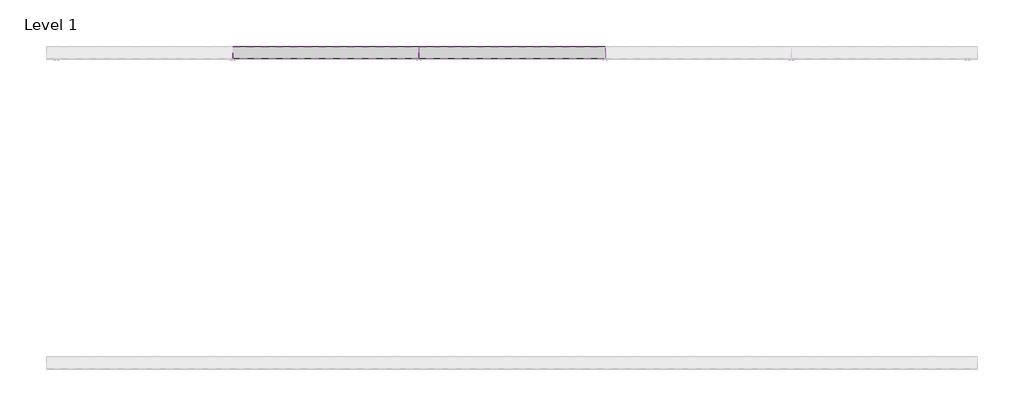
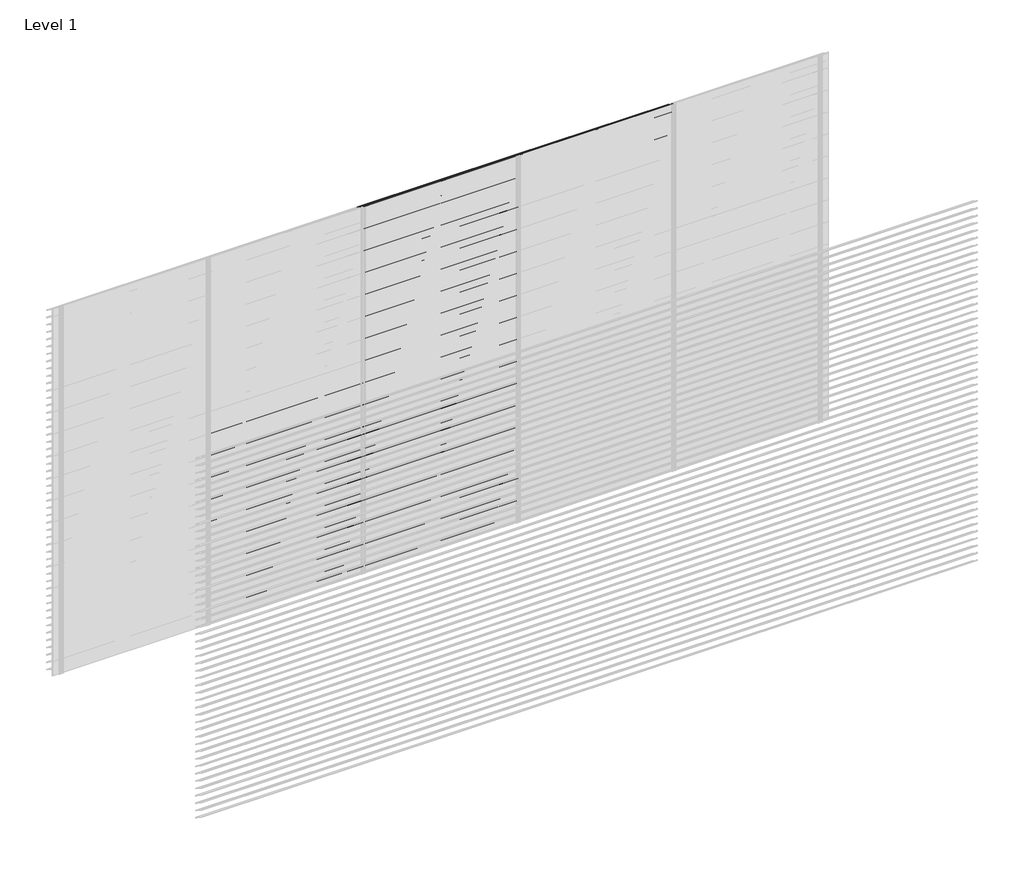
# One storey, part 133 of 153: 84 proxies.
"""IFC4 building model written with IfcOpenShell, lengths in millimetres."""

from ifc_helpers import new_model, si_unit, frame, origin, place, context, project, spatial, polyline, outline, extrude, element, save

model = new_model("IFC4")

# Units and contexts
model_context = context("Model", 3, world=origin())
ifc_project = project(units=[si_unit("LENGTHUNIT", "METRE", prefix="MILLI")], contexts=[model_context])

# Site, building, storey
site = spatial("IfcSite", under=ifc_project)
building = spatial("IfcBuilding", under=site)
storey = spatial("IfcBuildingStorey", under=building, Name="Level 1", Elevation=0.0)

# Proxies
placement = place(None, origin())
element("IfcBuildingElementProxy", 1, Name="Wall Sweeps", at=placement, inside=storey, context=model_context, shape_type="SweptSolid", body=[
    extrude(outline(polyline([(74061.0540136, 1566.0), (74061.0540136, 1560.0), (74059.8040136, 1560.7216933), (74059.8040136, 1565.2538091), (73983.0540136, 1613.9915103), (73983.0540136, 1620.0), (73984.3040136, 1620.0), (73984.3040136, 1614.7377012), (74061.0540136, 1566.0)])), frame((1666.6208099, 0.0, 0.0), z_axis=(1.0, 0.0, 0.0), x_axis=(0.0, 1.0, 0.0)), (0.0, 0.0, 1.0), 1199.9999999),
])
element("IfcBuildingElementProxy", 2, Name="Wall Sweeps", at=placement, inside=storey, context=model_context, shape_type="SweptSolid", body=[
    extrude(outline(polyline([(74061.0540136, 1506.0), (74061.0540136, 1500.0), (74059.8040136, 1500.7216933), (74059.8040136, 1505.2538091), (73983.0540136, 1553.9915103), (73983.0540136, 1560.0), (73984.3040136, 1560.0), (73984.3040136, 1554.7377012), (74061.0540136, 1506.0)])), frame((1666.6208099, 0.0, 0.0), z_axis=(1.0, 0.0, 0.0), x_axis=(0.0, 1.0, 0.0)), (0.0, 0.0, 1.0), 1199.9999999),
])
element("IfcBuildingElementProxy", 3, Name="Wall Sweeps", at=placement, inside=storey, context=model_context, shape_type="SweptSolid", body=[
    extrude(outline(polyline([(74061.0540136, 1446.0), (74061.0540136, 1440.0), (74059.8040136, 1440.7216933), (74059.8040136, 1445.2538091), (73983.0540136, 1493.9915103), (73983.0540136, 1500.0), (73984.3040136, 1500.0), (73984.3040136, 1494.7377012), (74061.0540136, 1446.0)])), frame((1666.6208099, 0.0, 0.0), z_axis=(1.0, 0.0, 0.0), x_axis=(0.0, 1.0, 0.0)), (0.0, 0.0, 1.0), 1199.9999999),
])
element("IfcBuildingElementProxy", 4, Name="Wall Sweeps", at=placement, inside=storey, context=model_context, shape_type="SweptSolid", body=[
    extrude(outline(polyline([(74061.0540136, 1386.0), (74061.0540136, 1380.0), (74059.8040136, 1380.7216933), (74059.8040136, 1385.2538091), (73983.0540136, 1433.9915103), (73983.0540136, 1440.0), (73984.3040136, 1440.0), (73984.3040136, 1434.7377012), (74061.0540136, 1386.0)])), frame((1666.6208099, 0.0, 0.0), z_axis=(1.0, 0.0, 0.0), x_axis=(0.0, 1.0, 0.0)), (0.0, 0.0, 1.0), 1199.9999999),
])
element("IfcBuildingElementProxy", 5, Name="Wall Sweeps", at=placement, inside=storey, context=model_context, shape_type="SweptSolid", body=[
    extrude(outline(polyline([(74061.0540136, 1326.0), (74061.0540136, 1320.0), (74059.8040136, 1320.7216933), (74059.8040136, 1325.2538091), (73983.0540136, 1373.9915103), (73983.0540136, 1380.0), (73984.3040136, 1380.0), (73984.3040136, 1374.7377012), (74061.0540136, 1326.0)])), frame((1666.6208099, 0.0, 0.0), z_axis=(1.0, 0.0, 0.0), x_axis=(0.0, 1.0, 0.0)), (0.0, 0.0, 1.0), 1199.9999999),
])
element("IfcBuildingElementProxy", 6, Name="Wall Sweeps", at=placement, inside=storey, context=model_context, shape_type="SweptSolid", body=[
    extrude(outline(polyline([(74061.0540136, 1266.0), (74061.0540136, 1260.0), (74059.8040136, 1260.7216933), (74059.8040136, 1265.2538091), (73983.0540136, 1313.9915103), (73983.0540136, 1320.0), (73984.3040136, 1320.0), (73984.3040136, 1314.7377012), (74061.0540136, 1266.0)])), frame((1666.6208099, 0.0, 0.0), z_axis=(1.0, 0.0, 0.0), x_axis=(0.0, 1.0, 0.0)), (0.0, 0.0, 1.0), 1199.9999999),
])
element("IfcBuildingElementProxy", 7, Name="Wall Sweeps", at=placement, inside=storey, context=model_context, shape_type="SweptSolid", body=[
    extrude(outline(polyline([(74061.0540136, 1206.0), (74061.0540136, 1200.0), (74059.8040136, 1200.7216933), (74059.8040136, 1205.2538091), (73983.0540136, 1253.9915103), (73983.0540136, 1260.0), (73984.3040136, 1260.0), (73984.3040136, 1254.7377012), (74061.0540136, 1206.0)])), frame((1666.6208099, 0.0, 0.0), z_axis=(1.0, 0.0, 0.0), x_axis=(0.0, 1.0, 0.0)), (0.0, 0.0, 1.0), 1199.9999999),
])
element("IfcBuildingElementProxy", 8, Name="Wall Sweeps", at=placement, inside=storey, context=model_context, shape_type="SweptSolid", body=[
    extrude(outline(polyline([(74061.0540136, 1146.0), (74061.0540136, 1140.0), (74059.8040136, 1140.7216933), (74059.8040136, 1145.2538091), (73983.0540136, 1193.9915103), (73983.0540136, 1200.0), (73984.3040136, 1200.0), (73984.3040136, 1194.7377012), (74061.0540136, 1146.0)])), frame((1666.6208099, 0.0, 0.0), z_axis=(1.0, 0.0, 0.0), x_axis=(0.0, 1.0, 0.0)), (0.0, 0.0, 1.0), 1199.9999999),
])
element("IfcBuildingElementProxy", 9, Name="Wall Sweeps", at=placement, inside=storey, context=model_context, shape_type="SweptSolid", body=[
    extrude(outline(polyline([(74061.0540136, 1086.0), (74061.0540136, 1080.0), (74059.8040136, 1080.7216933), (74059.8040136, 1085.2538091), (73983.0540136, 1133.9915103), (73983.0540136, 1140.0), (73984.3040136, 1140.0), (73984.3040136, 1134.7377012), (74061.0540136, 1086.0)])), frame((1666.6208099, 0.0, 0.0), z_axis=(1.0, 0.0, 0.0), x_axis=(0.0, 1.0, 0.0)), (0.0, 0.0, 1.0), 1199.9999999),
])
element("IfcBuildingElementProxy", 10, Name="Wall Sweeps", at=placement, inside=storey, context=model_context, shape_type="SweptSolid", body=[
    extrude(outline(polyline([(74061.0540136, 1026.0), (74061.0540136, 1020.0), (74059.8040136, 1020.7216933), (74059.8040136, 1025.2538091), (73983.0540136, 1073.9915103), (73983.0540136, 1080.0), (73984.3040136, 1080.0), (73984.3040136, 1074.7377012), (74061.0540136, 1026.0)])), frame((1666.6208099, 0.0, 0.0), z_axis=(1.0, 0.0, 0.0), x_axis=(0.0, 1.0, 0.0)), (0.0, 0.0, 1.0), 1199.9999999),
])
element("IfcBuildingElementProxy", 11, Name="Wall Sweeps", at=placement, inside=storey, context=model_context, shape_type="SweptSolid", body=[
    extrude(outline(polyline([(74061.0540136, 966.0), (74061.0540136, 960.0), (74059.8040136, 960.7216933), (74059.8040136, 965.2538091), (73983.0540136, 1013.9915103), (73983.0540136, 1020.0), (73984.3040136, 1020.0), (73984.3040136, 1014.7377012), (74061.0540136, 966.0)])), frame((1666.6208099, 0.0, 0.0), z_axis=(1.0, 0.0, 0.0), x_axis=(0.0, 1.0, 0.0)), (0.0, 0.0, 1.0), 1199.9999999),
])
element("IfcBuildingElementProxy", 12, Name="Wall Sweeps", at=placement, inside=storey, context=model_context, shape_type="SweptSolid", body=[
    extrude(outline(polyline([(74061.0540136, 906.0), (74061.0540136, 900.0), (74059.8040136, 900.7216933), (74059.8040136, 905.2538091), (73983.0540136, 953.9915103), (73983.0540136, 960.0), (73984.3040136, 960.0), (73984.3040136, 954.7377012), (74061.0540136, 906.0)])), frame((1666.6208099, 0.0, 0.0), z_axis=(1.0, 0.0, 0.0), x_axis=(0.0, 1.0, 0.0)), (0.0, 0.0, 1.0), 1199.9999999),
])
element("IfcBuildingElementProxy", 13, Name="Wall Sweeps", at=placement, inside=storey, context=model_context, shape_type="SweptSolid", body=[
    extrude(outline(polyline([(74061.0540136, 846.0), (74061.0540136, 840.0), (74059.8040136, 840.7216933), (74059.8040136, 845.2538091), (73983.0540136, 893.9915103), (73983.0540136, 900.0), (73984.3040136, 900.0), (73984.3040136, 894.7377012), (74061.0540136, 846.0)])), frame((1666.6208099, 0.0, 0.0), z_axis=(1.0, 0.0, 0.0), x_axis=(0.0, 1.0, 0.0)), (0.0, 0.0, 1.0), 1199.9999999),
])
element("IfcBuildingElementProxy", 14, Name="Wall Sweeps", at=placement, inside=storey, context=model_context, shape_type="SweptSolid", body=[
    extrude(outline(polyline([(74061.0540136, 786.0), (74061.0540136, 780.0), (74059.8040136, 780.7216933), (74059.8040136, 785.2538091), (73983.0540136, 833.9915103), (73983.0540136, 840.0), (73984.3040136, 840.0), (73984.3040136, 834.7377012), (74061.0540136, 786.0)])), frame((1666.6208099, 0.0, 0.0), z_axis=(1.0, 0.0, 0.0), x_axis=(0.0, 1.0, 0.0)), (0.0, 0.0, 1.0), 1199.9999999),
])
element("IfcBuildingElementProxy", 15, Name="Wall Sweeps", at=placement, inside=storey, context=model_context, shape_type="SweptSolid", body=[
    extrude(outline(polyline([(74061.0540136, 726.0), (74061.0540136, 720.0), (74059.8040136, 720.7216933), (74059.8040136, 725.2538091), (73983.0540136, 773.9915103), (73983.0540136, 780.0), (73984.3040136, 780.0), (73984.3040136, 774.7377012), (74061.0540136, 726.0)])), frame((1666.6208099, 0.0, 0.0), z_axis=(1.0, 0.0, 0.0), x_axis=(0.0, 1.0, 0.0)), (0.0, 0.0, 1.0), 1199.9999999),
])
element("IfcBuildingElementProxy", 16, Name="Wall Sweeps", at=placement, inside=storey, context=model_context, shape_type="SweptSolid", body=[
    extrude(outline(polyline([(74061.0540136, 666.0), (74061.0540136, 660.0), (74059.8040136, 660.7216933), (74059.8040136, 665.2538091), (73983.0540136, 713.9915103), (73983.0540136, 720.0), (73984.3040136, 720.0), (73984.3040136, 714.7377012), (74061.0540136, 666.0)])), frame((1666.6208099, 0.0, 0.0), z_axis=(1.0, 0.0, 0.0), x_axis=(0.0, 1.0, 0.0)), (0.0, 0.0, 1.0), 1199.9999999),
])
element("IfcBuildingElementProxy", 17, Name="Wall Sweeps", at=placement, inside=storey, context=model_context, shape_type="SweptSolid", body=[
    extrude(outline(polyline([(74061.0540136, 606.0), (74061.0540136, 600.0), (74059.8040136, 600.7216933), (74059.8040136, 605.2538091), (73983.0540136, 653.9915103), (73983.0540136, 660.0), (73984.3040136, 660.0), (73984.3040136, 654.7377012), (74061.0540136, 606.0)])), frame((1666.6208099, 0.0, 0.0), z_axis=(1.0, 0.0, 0.0), x_axis=(0.0, 1.0, 0.0)), (0.0, 0.0, 1.0), 1199.9999999),
])
element("IfcBuildingElementProxy", 18, Name="Wall Sweeps", at=placement, inside=storey, context=model_context, shape_type="SweptSolid", body=[
    extrude(outline(polyline([(74061.0540136, 546.0), (74061.0540136, 540.0), (74059.8040136, 540.7216933), (74059.8040136, 545.2538091), (73983.0540136, 593.9915103), (73983.0540136, 600.0), (73984.3040136, 600.0), (73984.3040136, 594.7377012), (74061.0540136, 546.0)])), frame((1666.6208099, 0.0, 0.0), z_axis=(1.0, 0.0, 0.0), x_axis=(0.0, 1.0, 0.0)), (0.0, 0.0, 1.0), 1199.9999999),
])
element("IfcBuildingElementProxy", 19, Name="Wall Sweeps", at=placement, inside=storey, context=model_context, shape_type="SweptSolid", body=[
    extrude(outline(polyline([(74061.0540136, 486.0), (74061.0540136, 480.0), (74059.8040136, 480.7216933), (74059.8040136, 485.2538091), (73983.0540136, 533.9915103), (73983.0540136, 540.0), (73984.3040136, 540.0), (73984.3040136, 534.7377012), (74061.0540136, 486.0)])), frame((1666.6208099, 0.0, 0.0), z_axis=(1.0, 0.0, 0.0), x_axis=(0.0, 1.0, 0.0)), (0.0, 0.0, 1.0), 1199.9999999),
])
element("IfcBuildingElementProxy", 20, Name="Wall Sweeps", at=placement, inside=storey, context=model_context, shape_type="SweptSolid", body=[
    extrude(outline(polyline([(74061.0540136, 426.0), (74061.0540136, 420.0), (74059.8040136, 420.7216933), (74059.8040136, 425.2538091), (73983.0540136, 473.9915103), (73983.0540136, 480.0), (73984.3040136, 480.0), (73984.3040136, 474.7377012), (74061.0540136, 426.0)])), frame((1666.6208099, 0.0, 0.0), z_axis=(1.0, 0.0, 0.0), x_axis=(0.0, 1.0, 0.0)), (0.0, 0.0, 1.0), 1199.9999999),
])
element("IfcBuildingElementProxy", 21, Name="Wall Sweeps", at=placement, inside=storey, context=model_context, shape_type="SweptSolid", body=[
    extrude(outline(polyline([(74061.0540136, 366.0), (74061.0540136, 360.0), (74059.8040136, 360.7216933), (74059.8040136, 365.2538091), (73983.0540136, 413.9915103), (73983.0540136, 420.0), (73984.3040136, 420.0), (73984.3040136, 414.7377012), (74061.0540136, 366.0)])), frame((1666.6208099, 0.0, 0.0), z_axis=(1.0, 0.0, 0.0), x_axis=(0.0, 1.0, 0.0)), (0.0, 0.0, 1.0), 1199.9999999),
])
element("IfcBuildingElementProxy", 22, Name="Wall Sweeps", at=placement, inside=storey, context=model_context, shape_type="SweptSolid", body=[
    extrude(outline(polyline([(74061.0540136, 306.0), (74061.0540136, 300.0), (74059.8040136, 300.7216933), (74059.8040136, 305.2538091), (73983.0540136, 353.9915103), (73983.0540136, 360.0), (73984.3040136, 360.0), (73984.3040136, 354.7377012), (74061.0540136, 306.0)])), frame((1666.6208099, 0.0, 0.0), z_axis=(1.0, 0.0, 0.0), x_axis=(0.0, 1.0, 0.0)), (0.0, 0.0, 1.0), 1199.9999999),
])
element("IfcBuildingElementProxy", 23, Name="Wall Sweeps", at=placement, inside=storey, context=model_context, shape_type="SweptSolid", body=[
    extrude(outline(polyline([(74061.0540136, 246.0), (74061.0540136, 240.0), (74059.8040136, 240.7216933), (74059.8040136, 245.2538091), (73983.0540136, 293.9915103), (73983.0540136, 300.0), (73984.3040136, 300.0), (73984.3040136, 294.7377012), (74061.0540136, 246.0)])), frame((1666.6208099, 0.0, 0.0), z_axis=(1.0, 0.0, 0.0), x_axis=(0.0, 1.0, 0.0)), (0.0, 0.0, 1.0), 1199.9999999),
])
element("IfcBuildingElementProxy", 24, Name="Wall Sweeps", at=placement, inside=storey, context=model_context, shape_type="SweptSolid", body=[
    extrude(outline(polyline([(74061.0540136, 186.0), (74061.0540136, 180.0), (74059.8040136, 180.7216933), (74059.8040136, 185.2538091), (73983.0540136, 233.9915103), (73983.0540136, 240.0), (73984.3040136, 240.0), (73984.3040136, 234.7377012), (74061.0540136, 186.0)])), frame((1666.6208099, 0.0, 0.0), z_axis=(1.0, 0.0, 0.0), x_axis=(0.0, 1.0, 0.0)), (0.0, 0.0, 1.0), 1199.9999999),
])
element("IfcBuildingElementProxy", 25, Name="Wall Sweeps", at=placement, inside=storey, context=model_context, shape_type="SweptSolid", body=[
    extrude(outline(polyline([(74061.0540136, 126.0), (74061.0540136, 120.0), (74059.8040136, 120.7216933), (74059.8040136, 125.2538091), (73983.0540136, 173.9915103), (73983.0540136, 180.0), (73984.3040136, 180.0), (73984.3040136, 174.7377012), (74061.0540136, 126.0)])), frame((1666.6208099, 0.0, 0.0), z_axis=(1.0, 0.0, 0.0), x_axis=(0.0, 1.0, 0.0)), (0.0, 0.0, 1.0), 1199.9999999),
])
element("IfcBuildingElementProxy", 26, Name="Wall Sweeps", at=placement, inside=storey, context=model_context, shape_type="SweptSolid", body=[
    extrude(outline(polyline([(74061.0540136, 66.0), (74061.0540136, 60.0), (74059.8040136, 60.7216933), (74059.8040136, 65.2538091), (73983.0540136, 113.9915103), (73983.0540136, 120.0), (73984.3040136, 120.0), (73984.3040136, 114.7377012), (74061.0540136, 66.0)])), frame((1666.6208099, 0.0, 0.0), z_axis=(1.0, 0.0, 0.0), x_axis=(0.0, 1.0, 0.0)), (0.0, 0.0, 1.0), 1199.9999999),
])
element("IfcBuildingElementProxy", 27, Name="Wall Sweeps", at=placement, inside=storey, context=model_context, shape_type="SweptSolid", body=[
    extrude(outline(polyline([(74061.0540136, 6.0), (74061.0540136, 0.0), (74059.8040136, 0.7216933), (74059.8040136, 5.2538091), (73983.0540136, 53.9915103), (73983.0540136, 60.0), (73984.3040136, 60.0), (73984.3040136, 54.7377012), (74061.0540136, 6.0)])), frame((1666.6208099, 0.0, 0.0), z_axis=(1.0, 0.0, 0.0), x_axis=(0.0, 1.0, 0.0)), (0.0, 0.0, 1.0), 1199.9999999),
])
element("IfcBuildingElementProxy", 28, Name="Wall Sweeps", at=placement, inside=storey, context=model_context, shape_type="SweptSolid", body=[
    extrude(outline(polyline([(74061.0540136, 2946.0), (74061.0540136, 2940.0), (74059.8040136, 2940.7216933), (74059.8040136, 2945.2538091), (73983.0540136, 2993.9915103), (73983.0540136, 3000.0), (73984.3040136, 3000.0), (73984.3040136, 2994.7377012), (74061.0540136, 2946.0)])), frame((2866.6208097, 0.0, 0.0), z_axis=(1.0, 0.0, 0.0), x_axis=(0.0, 1.0, 0.0)), (0.0, 0.0, 1.0), 1199.9999999),
])
element("IfcBuildingElementProxy", 29, Name="Wall Sweeps", at=placement, inside=storey, context=model_context, shape_type="SweptSolid", body=[
    extrude(outline(polyline([(74061.0540136, 2886.0), (74061.0540136, 2880.0), (74059.8040136, 2880.7216933), (74059.8040136, 2885.2538091), (73983.0540136, 2933.9915103), (73983.0540136, 2940.0), (73984.3040136, 2940.0), (73984.3040136, 2934.7377012), (74061.0540136, 2886.0)])), frame((2866.6208097, 0.0, 0.0), z_axis=(1.0, 0.0, 0.0), x_axis=(0.0, 1.0, 0.0)), (0.0, 0.0, 1.0), 1199.9999999),
])
element("IfcBuildingElementProxy", 30, Name="Wall Sweeps", at=placement, inside=storey, context=model_context, shape_type="SweptSolid", body=[
    extrude(outline(polyline([(74061.0540136, 2826.0), (74061.0540136, 2820.0), (74059.8040136, 2820.7216933), (74059.8040136, 2825.2538091), (73983.0540136, 2873.9915103), (73983.0540136, 2880.0), (73984.3040136, 2880.0), (73984.3040136, 2874.7377012), (74061.0540136, 2826.0)])), frame((2866.6208097, 0.0, 0.0), z_axis=(1.0, 0.0, 0.0), x_axis=(0.0, 1.0, 0.0)), (0.0, 0.0, 1.0), 1199.9999999),
])
element("IfcBuildingElementProxy", 31, Name="Wall Sweeps", at=placement, inside=storey, context=model_context, shape_type="SweptSolid", body=[
    extrude(outline(polyline([(74061.0540136, 2766.0), (74061.0540136, 2760.0), (74059.8040136, 2760.7216933), (74059.8040136, 2765.2538091), (73983.0540136, 2813.9915103), (73983.0540136, 2820.0), (73984.3040136, 2820.0), (73984.3040136, 2814.7377012), (74061.0540136, 2766.0)])), frame((2866.6208097, 0.0, 0.0), z_axis=(1.0, 0.0, 0.0), x_axis=(0.0, 1.0, 0.0)), (0.0, 0.0, 1.0), 1199.9999999),
])
element("IfcBuildingElementProxy", 32, Name="Wall Sweeps", at=placement, inside=storey, context=model_context, shape_type="SweptSolid", body=[
    extrude(outline(polyline([(74061.0540136, 2706.0), (74061.0540136, 2700.0), (74059.8040136, 2700.7216933), (74059.8040136, 2705.2538091), (73983.0540136, 2753.9915103), (73983.0540136, 2760.0), (73984.3040136, 2760.0), (73984.3040136, 2754.7377012), (74061.0540136, 2706.0)])), frame((2866.6208097, 0.0, 0.0), z_axis=(1.0, 0.0, 0.0), x_axis=(0.0, 1.0, 0.0)), (0.0, 0.0, 1.0), 1199.9999999),
])
element("IfcBuildingElementProxy", 33, Name="Wall Sweeps", at=placement, inside=storey, context=model_context, shape_type="SweptSolid", body=[
    extrude(outline(polyline([(74061.0540136, 2646.0), (74061.0540136, 2640.0), (74059.8040136, 2640.7216933), (74059.8040136, 2645.2538091), (73983.0540136, 2693.9915103), (73983.0540136, 2700.0), (73984.3040136, 2700.0), (73984.3040136, 2694.7377012), (74061.0540136, 2646.0)])), frame((2866.6208097, 0.0, 0.0), z_axis=(1.0, 0.0, 0.0), x_axis=(0.0, 1.0, 0.0)), (0.0, 0.0, 1.0), 1199.9999999),
])
element("IfcBuildingElementProxy", 34, Name="Wall Sweeps", at=placement, inside=storey, context=model_context, shape_type="SweptSolid", body=[
    extrude(outline(polyline([(74061.0540136, 2586.0), (74061.0540136, 2580.0), (74059.8040136, 2580.7216933), (74059.8040136, 2585.2538091), (73983.0540136, 2633.9915103), (73983.0540136, 2640.0), (73984.3040136, 2640.0), (73984.3040136, 2634.7377012), (74061.0540136, 2586.0)])), frame((2866.6208097, 0.0, 0.0), z_axis=(1.0, 0.0, 0.0), x_axis=(0.0, 1.0, 0.0)), (0.0, 0.0, 1.0), 1199.9999999),
])
element("IfcBuildingElementProxy", 35, Name="Wall Sweeps", at=placement, inside=storey, context=model_context, shape_type="SweptSolid", body=[
    extrude(outline(polyline([(74061.0540136, 2526.0), (74061.0540136, 2520.0), (74059.8040136, 2520.7216933), (74059.8040136, 2525.2538091), (73983.0540136, 2573.9915103), (73983.0540136, 2580.0), (73984.3040136, 2580.0), (73984.3040136, 2574.7377012), (74061.0540136, 2526.0)])), frame((2866.6208097, 0.0, 0.0), z_axis=(1.0, 0.0, 0.0), x_axis=(0.0, 1.0, 0.0)), (0.0, 0.0, 1.0), 1199.9999999),
])
element("IfcBuildingElementProxy", 36, Name="Wall Sweeps", at=placement, inside=storey, context=model_context, shape_type="SweptSolid", body=[
    extrude(outline(polyline([(74061.0540136, 2466.0), (74061.0540136, 2460.0), (74059.8040136, 2460.7216933), (74059.8040136, 2465.2538091), (73983.0540136, 2513.9915103), (73983.0540136, 2520.0), (73984.3040136, 2520.0), (73984.3040136, 2514.7377012), (74061.0540136, 2466.0)])), frame((2866.6208097, 0.0, 0.0), z_axis=(1.0, 0.0, 0.0), x_axis=(0.0, 1.0, 0.0)), (0.0, 0.0, 1.0), 1199.9999999),
])
element("IfcBuildingElementProxy", 37, Name="Wall Sweeps", at=placement, inside=storey, context=model_context, shape_type="SweptSolid", body=[
    extrude(outline(polyline([(74061.0540136, 2406.0), (74061.0540136, 2400.0), (74059.8040136, 2400.7216933), (74059.8040136, 2405.2538091), (73983.0540136, 2453.9915103), (73983.0540136, 2460.0), (73984.3040136, 2460.0), (73984.3040136, 2454.7377012), (74061.0540136, 2406.0)])), frame((2866.6208097, 0.0, 0.0), z_axis=(1.0, 0.0, 0.0), x_axis=(0.0, 1.0, 0.0)), (0.0, 0.0, 1.0), 1199.9999999),
])
element("IfcBuildingElementProxy", 38, Name="Wall Sweeps", at=placement, inside=storey, context=model_context, shape_type="SweptSolid", body=[
    extrude(outline(polyline([(74061.0540136, 2346.0), (74061.0540136, 2340.0), (74059.8040136, 2340.7216933), (74059.8040136, 2345.2538091), (73983.0540136, 2393.9915103), (73983.0540136, 2400.0), (73984.3040136, 2400.0), (73984.3040136, 2394.7377012), (74061.0540136, 2346.0)])), frame((2866.6208097, 0.0, 0.0), z_axis=(1.0, 0.0, 0.0), x_axis=(0.0, 1.0, 0.0)), (0.0, 0.0, 1.0), 1199.9999999),
])
element("IfcBuildingElementProxy", 39, Name="Wall Sweeps", at=placement, inside=storey, context=model_context, shape_type="SweptSolid", body=[
    extrude(outline(polyline([(74061.0540136, 2286.0), (74061.0540136, 2280.0), (74059.8040136, 2280.7216933), (74059.8040136, 2285.2538091), (73983.0540136, 2333.9915103), (73983.0540136, 2340.0), (73984.3040136, 2340.0), (73984.3040136, 2334.7377012), (74061.0540136, 2286.0)])), frame((2866.6208097, 0.0, 0.0), z_axis=(1.0, 0.0, 0.0), x_axis=(0.0, 1.0, 0.0)), (0.0, 0.0, 1.0), 1199.9999999),
])
element("IfcBuildingElementProxy", 40, Name="Wall Sweeps", at=placement, inside=storey, context=model_context, shape_type="SweptSolid", body=[
    extrude(outline(polyline([(74061.0540136, 2226.0), (74061.0540136, 2220.0), (74059.8040136, 2220.7216933), (74059.8040136, 2225.2538091), (73983.0540136, 2273.9915103), (73983.0540136, 2280.0), (73984.3040136, 2280.0), (73984.3040136, 2274.7377012), (74061.0540136, 2226.0)])), frame((2866.6208097, 0.0, 0.0), z_axis=(1.0, 0.0, 0.0), x_axis=(0.0, 1.0, 0.0)), (0.0, 0.0, 1.0), 1199.9999999),
])
element("IfcBuildingElementProxy", 41, Name="Wall Sweeps", at=placement, inside=storey, context=model_context, shape_type="SweptSolid", body=[
    extrude(outline(polyline([(74061.0540136, 2166.0), (74061.0540136, 2160.0), (74059.8040136, 2160.7216933), (74059.8040136, 2165.2538091), (73983.0540136, 2213.9915103), (73983.0540136, 2220.0), (73984.3040136, 2220.0), (73984.3040136, 2214.7377012), (74061.0540136, 2166.0)])), frame((2866.6208097, 0.0, 0.0), z_axis=(1.0, 0.0, 0.0), x_axis=(0.0, 1.0, 0.0)), (0.0, 0.0, 1.0), 1199.9999999),
])
element("IfcBuildingElementProxy", 42, Name="Wall Sweeps", at=placement, inside=storey, context=model_context, shape_type="SweptSolid", body=[
    extrude(outline(polyline([(74061.0540136, 2106.0), (74061.0540136, 2100.0), (74059.8040136, 2100.7216933), (74059.8040136, 2105.2538091), (73983.0540136, 2153.9915103), (73983.0540136, 2160.0), (73984.3040136, 2160.0), (73984.3040136, 2154.7377012), (74061.0540136, 2106.0)])), frame((2866.6208097, 0.0, 0.0), z_axis=(1.0, 0.0, 0.0), x_axis=(0.0, 1.0, 0.0)), (0.0, 0.0, 1.0), 1199.9999999),
])
element("IfcBuildingElementProxy", 43, Name="Wall Sweeps", at=placement, inside=storey, context=model_context, shape_type="SweptSolid", body=[
    extrude(outline(polyline([(74061.0540136, 2046.0), (74061.0540136, 2040.0), (74059.8040136, 2040.7216933), (74059.8040136, 2045.2538091), (73983.0540136, 2093.9915103), (73983.0540136, 2100.0), (73984.3040136, 2100.0), (73984.3040136, 2094.7377012), (74061.0540136, 2046.0)])), frame((2866.6208097, 0.0, 0.0), z_axis=(1.0, 0.0, 0.0), x_axis=(0.0, 1.0, 0.0)), (0.0, 0.0, 1.0), 1199.9999999),
])
element("IfcBuildingElementProxy", 44, Name="Wall Sweeps", at=placement, inside=storey, context=model_context, shape_type="SweptSolid", body=[
    extrude(outline(polyline([(74061.0540136, 1986.0), (74061.0540136, 1980.0), (74059.8040136, 1980.7216933), (74059.8040136, 1985.2538091), (73983.0540136, 2033.9915103), (73983.0540136, 2040.0), (73984.3040136, 2040.0), (73984.3040136, 2034.7377012), (74061.0540136, 1986.0)])), frame((2866.6208097, 0.0, 0.0), z_axis=(1.0, 0.0, 0.0), x_axis=(0.0, 1.0, 0.0)), (0.0, 0.0, 1.0), 1199.9999999),
])
element("IfcBuildingElementProxy", 45, Name="Wall Sweeps", at=placement, inside=storey, context=model_context, shape_type="SweptSolid", body=[
    extrude(outline(polyline([(74061.0540136, 1926.0), (74061.0540136, 1920.0), (74059.8040136, 1920.7216933), (74059.8040136, 1925.2538091), (73983.0540136, 1973.9915103), (73983.0540136, 1980.0), (73984.3040136, 1980.0), (73984.3040136, 1974.7377012), (74061.0540136, 1926.0)])), frame((2866.6208097, 0.0, 0.0), z_axis=(1.0, 0.0, 0.0), x_axis=(0.0, 1.0, 0.0)), (0.0, 0.0, 1.0), 1199.9999999),
])
element("IfcBuildingElementProxy", 46, Name="Wall Sweeps", at=placement, inside=storey, context=model_context, shape_type="SweptSolid", body=[
    extrude(outline(polyline([(74061.0540136, 1866.0), (74061.0540136, 1860.0), (74059.8040136, 1860.7216933), (74059.8040136, 1865.2538091), (73983.0540136, 1913.9915103), (73983.0540136, 1920.0), (73984.3040136, 1920.0), (73984.3040136, 1914.7377012), (74061.0540136, 1866.0)])), frame((2866.6208097, 0.0, 0.0), z_axis=(1.0, 0.0, 0.0), x_axis=(0.0, 1.0, 0.0)), (0.0, 0.0, 1.0), 1199.9999999),
])
element("IfcBuildingElementProxy", 47, Name="Wall Sweeps", at=placement, inside=storey, context=model_context, shape_type="SweptSolid", body=[
    extrude(outline(polyline([(74061.0540136, 1806.0), (74061.0540136, 1800.0), (74059.8040136, 1800.7216933), (74059.8040136, 1805.2538091), (73983.0540136, 1853.9915103), (73983.0540136, 1860.0), (73984.3040136, 1860.0), (73984.3040136, 1854.7377012), (74061.0540136, 1806.0)])), frame((2866.6208097, 0.0, 0.0), z_axis=(1.0, 0.0, 0.0), x_axis=(0.0, 1.0, 0.0)), (0.0, 0.0, 1.0), 1199.9999999),
])
element("IfcBuildingElementProxy", 48, Name="Wall Sweeps", at=placement, inside=storey, context=model_context, shape_type="SweptSolid", body=[
    extrude(outline(polyline([(74061.0540136, 1746.0), (74061.0540136, 1740.0), (74059.8040136, 1740.7216933), (74059.8040136, 1745.2538091), (73983.0540136, 1793.9915103), (73983.0540136, 1800.0), (73984.3040136, 1800.0), (73984.3040136, 1794.7377012), (74061.0540136, 1746.0)])), frame((2866.6208097, 0.0, 0.0), z_axis=(1.0, 0.0, 0.0), x_axis=(0.0, 1.0, 0.0)), (0.0, 0.0, 1.0), 1199.9999999),
])
element("IfcBuildingElementProxy", 49, Name="Wall Sweeps", at=placement, inside=storey, context=model_context, shape_type="SweptSolid", body=[
    extrude(outline(polyline([(74061.0540136, 1686.0), (74061.0540136, 1680.0), (74059.8040136, 1680.7216933), (74059.8040136, 1685.2538091), (73983.0540136, 1733.9915103), (73983.0540136, 1740.0), (73984.3040136, 1740.0), (73984.3040136, 1734.7377012), (74061.0540136, 1686.0)])), frame((2866.6208097, 0.0, 0.0), z_axis=(1.0, 0.0, 0.0), x_axis=(0.0, 1.0, 0.0)), (0.0, 0.0, 1.0), 1199.9999999),
])
element("IfcBuildingElementProxy", 50, Name="Wall Sweeps", at=placement, inside=storey, context=model_context, shape_type="SweptSolid", body=[
    extrude(outline(polyline([(74061.0540136, 1626.0), (74061.0540136, 1620.0), (74059.8040136, 1620.7216933), (74059.8040136, 1625.2538091), (73983.0540136, 1673.9915103), (73983.0540136, 1680.0), (73984.3040136, 1680.0), (73984.3040136, 1674.7377012), (74061.0540136, 1626.0)])), frame((2866.6208097, 0.0, 0.0), z_axis=(1.0, 0.0, 0.0), x_axis=(0.0, 1.0, 0.0)), (0.0, 0.0, 1.0), 1199.9999999),
])
element("IfcBuildingElementProxy", 51, Name="Wall Sweeps", at=placement, inside=storey, context=model_context, shape_type="SweptSolid", body=[
    extrude(outline(polyline([(74061.0540136, 1566.0), (74061.0540136, 1560.0), (74059.8040136, 1560.7216933), (74059.8040136, 1565.2538091), (73983.0540136, 1613.9915103), (73983.0540136, 1620.0), (73984.3040136, 1620.0), (73984.3040136, 1614.7377012), (74061.0540136, 1566.0)])), frame((2866.6208097, 0.0, 0.0), z_axis=(1.0, 0.0, 0.0), x_axis=(0.0, 1.0, 0.0)), (0.0, 0.0, 1.0), 1199.9999999),
])
element("IfcBuildingElementProxy", 52, Name="Wall Sweeps", at=placement, inside=storey, context=model_context, shape_type="SweptSolid", body=[
    extrude(outline(polyline([(74061.0540136, 1506.0), (74061.0540136, 1500.0), (74059.8040136, 1500.7216933), (74059.8040136, 1505.2538091), (73983.0540136, 1553.9915103), (73983.0540136, 1560.0), (73984.3040136, 1560.0), (73984.3040136, 1554.7377012), (74061.0540136, 1506.0)])), frame((2866.6208097, 0.0, 0.0), z_axis=(1.0, 0.0, 0.0), x_axis=(0.0, 1.0, 0.0)), (0.0, 0.0, 1.0), 1199.9999999),
])
element("IfcBuildingElementProxy", 53, Name="Wall Sweeps", at=placement, inside=storey, context=model_context, shape_type="SweptSolid", body=[
    extrude(outline(polyline([(74061.0540136, 1446.0), (74061.0540136, 1440.0), (74059.8040136, 1440.7216933), (74059.8040136, 1445.2538091), (73983.0540136, 1493.9915103), (73983.0540136, 1500.0), (73984.3040136, 1500.0), (73984.3040136, 1494.7377012), (74061.0540136, 1446.0)])), frame((2866.6208097, 0.0, 0.0), z_axis=(1.0, 0.0, 0.0), x_axis=(0.0, 1.0, 0.0)), (0.0, 0.0, 1.0), 1199.9999999),
])
element("IfcBuildingElementProxy", 54, Name="Wall Sweeps", at=placement, inside=storey, context=model_context, shape_type="SweptSolid", body=[
    extrude(outline(polyline([(74061.0540136, 1386.0), (74061.0540136, 1380.0), (74059.8040136, 1380.7216933), (74059.8040136, 1385.2538091), (73983.0540136, 1433.9915103), (73983.0540136, 1440.0), (73984.3040136, 1440.0), (73984.3040136, 1434.7377012), (74061.0540136, 1386.0)])), frame((2866.6208097, 0.0, 0.0), z_axis=(1.0, 0.0, 0.0), x_axis=(0.0, 1.0, 0.0)), (0.0, 0.0, 1.0), 1199.9999999),
])
element("IfcBuildingElementProxy", 55, Name="Wall Sweeps", at=placement, inside=storey, context=model_context, shape_type="SweptSolid", body=[
    extrude(outline(polyline([(74061.0540136, 1326.0), (74061.0540136, 1320.0), (74059.8040136, 1320.7216933), (74059.8040136, 1325.2538091), (73983.0540136, 1373.9915103), (73983.0540136, 1380.0), (73984.3040136, 1380.0), (73984.3040136, 1374.7377012), (74061.0540136, 1326.0)])), frame((2866.6208097, 0.0, 0.0), z_axis=(1.0, 0.0, 0.0), x_axis=(0.0, 1.0, 0.0)), (0.0, 0.0, 1.0), 1199.9999999),
])
element("IfcBuildingElementProxy", 56, Name="Wall Sweeps", at=placement, inside=storey, context=model_context, shape_type="SweptSolid", body=[
    extrude(outline(polyline([(74061.0540136, 1266.0), (74061.0540136, 1260.0), (74059.8040136, 1260.7216933), (74059.8040136, 1265.2538091), (73983.0540136, 1313.9915103), (73983.0540136, 1320.0), (73984.3040136, 1320.0), (73984.3040136, 1314.7377012), (74061.0540136, 1266.0)])), frame((2866.6208097, 0.0, 0.0), z_axis=(1.0, 0.0, 0.0), x_axis=(0.0, 1.0, 0.0)), (0.0, 0.0, 1.0), 1199.9999999),
])
element("IfcBuildingElementProxy", 57, Name="Wall Sweeps", at=placement, inside=storey, context=model_context, shape_type="SweptSolid", body=[
    extrude(outline(polyline([(74061.0540136, 1206.0), (74061.0540136, 1200.0), (74059.8040136, 1200.7216933), (74059.8040136, 1205.2538091), (73983.0540136, 1253.9915103), (73983.0540136, 1260.0), (73984.3040136, 1260.0), (73984.3040136, 1254.7377012), (74061.0540136, 1206.0)])), frame((2866.6208097, 0.0, 0.0), z_axis=(1.0, 0.0, 0.0), x_axis=(0.0, 1.0, 0.0)), (0.0, 0.0, 1.0), 1199.9999999),
])
element("IfcBuildingElementProxy", 58, Name="Wall Sweeps", at=placement, inside=storey, context=model_context, shape_type="SweptSolid", body=[
    extrude(outline(polyline([(74061.0540136, 1146.0), (74061.0540136, 1140.0), (74059.8040136, 1140.7216933), (74059.8040136, 1145.2538091), (73983.0540136, 1193.9915103), (73983.0540136, 1200.0), (73984.3040136, 1200.0), (73984.3040136, 1194.7377012), (74061.0540136, 1146.0)])), frame((2866.6208097, 0.0, 0.0), z_axis=(1.0, 0.0, 0.0), x_axis=(0.0, 1.0, 0.0)), (0.0, 0.0, 1.0), 1199.9999999),
])
element("IfcBuildingElementProxy", 59, Name="Wall Sweeps", at=placement, inside=storey, context=model_context, shape_type="SweptSolid", body=[
    extrude(outline(polyline([(74061.0540136, 1086.0), (74061.0540136, 1080.0), (74059.8040136, 1080.7216933), (74059.8040136, 1085.2538091), (73983.0540136, 1133.9915103), (73983.0540136, 1140.0), (73984.3040136, 1140.0), (73984.3040136, 1134.7377012), (74061.0540136, 1086.0)])), frame((2866.6208097, 0.0, 0.0), z_axis=(1.0, 0.0, 0.0), x_axis=(0.0, 1.0, 0.0)), (0.0, 0.0, 1.0), 1199.9999999),
])
element("IfcBuildingElementProxy", 60, Name="Wall Sweeps", at=placement, inside=storey, context=model_context, shape_type="SweptSolid", body=[
    extrude(outline(polyline([(74061.0540136, 1026.0), (74061.0540136, 1020.0), (74059.8040136, 1020.7216933), (74059.8040136, 1025.2538091), (73983.0540136, 1073.9915103), (73983.0540136, 1080.0), (73984.3040136, 1080.0), (73984.3040136, 1074.7377012), (74061.0540136, 1026.0)])), frame((2866.6208097, 0.0, 0.0), z_axis=(1.0, 0.0, 0.0), x_axis=(0.0, 1.0, 0.0)), (0.0, 0.0, 1.0), 1199.9999999),
])
element("IfcBuildingElementProxy", 61, Name="Wall Sweeps", at=placement, inside=storey, context=model_context, shape_type="SweptSolid", body=[
    extrude(outline(polyline([(74061.0540136, 966.0), (74061.0540136, 960.0), (74059.8040136, 960.7216933), (74059.8040136, 965.2538091), (73983.0540136, 1013.9915103), (73983.0540136, 1020.0), (73984.3040136, 1020.0), (73984.3040136, 1014.7377012), (74061.0540136, 966.0)])), frame((2866.6208097, 0.0, 0.0), z_axis=(1.0, 0.0, 0.0), x_axis=(0.0, 1.0, 0.0)), (0.0, 0.0, 1.0), 1199.9999999),
])
element("IfcBuildingElementProxy", 62, Name="Wall Sweeps", at=placement, inside=storey, context=model_context, shape_type="SweptSolid", body=[
    extrude(outline(polyline([(74061.0540136, 906.0), (74061.0540136, 900.0), (74059.8040136, 900.7216933), (74059.8040136, 905.2538091), (73983.0540136, 953.9915103), (73983.0540136, 960.0), (73984.3040136, 960.0), (73984.3040136, 954.7377012), (74061.0540136, 906.0)])), frame((2866.6208097, 0.0, 0.0), z_axis=(1.0, 0.0, 0.0), x_axis=(0.0, 1.0, 0.0)), (0.0, 0.0, 1.0), 1199.9999999),
])
element("IfcBuildingElementProxy", 63, Name="Wall Sweeps", at=placement, inside=storey, context=model_context, shape_type="SweptSolid", body=[
    extrude(outline(polyline([(74061.0540136, 846.0), (74061.0540136, 840.0), (74059.8040136, 840.7216933), (74059.8040136, 845.2538091), (73983.0540136, 893.9915103), (73983.0540136, 900.0), (73984.3040136, 900.0), (73984.3040136, 894.7377012), (74061.0540136, 846.0)])), frame((2866.6208097, 0.0, 0.0), z_axis=(1.0, 0.0, 0.0), x_axis=(0.0, 1.0, 0.0)), (0.0, 0.0, 1.0), 1199.9999999),
])
element("IfcBuildingElementProxy", 64, Name="Wall Sweeps", at=placement, inside=storey, context=model_context, shape_type="SweptSolid", body=[
    extrude(outline(polyline([(74061.0540136, 786.0), (74061.0540136, 780.0), (74059.8040136, 780.7216933), (74059.8040136, 785.2538091), (73983.0540136, 833.9915103), (73983.0540136, 840.0), (73984.3040136, 840.0), (73984.3040136, 834.7377012), (74061.0540136, 786.0)])), frame((2866.6208097, 0.0, 0.0), z_axis=(1.0, 0.0, 0.0), x_axis=(0.0, 1.0, 0.0)), (0.0, 0.0, 1.0), 1199.9999999),
])
element("IfcBuildingElementProxy", 65, Name="Wall Sweeps", at=placement, inside=storey, context=model_context, shape_type="SweptSolid", body=[
    extrude(outline(polyline([(74061.0540136, 726.0), (74061.0540136, 720.0), (74059.8040136, 720.7216933), (74059.8040136, 725.2538091), (73983.0540136, 773.9915103), (73983.0540136, 780.0), (73984.3040136, 780.0), (73984.3040136, 774.7377012), (74061.0540136, 726.0)])), frame((2866.6208097, 0.0, 0.0), z_axis=(1.0, 0.0, 0.0), x_axis=(0.0, 1.0, 0.0)), (0.0, 0.0, 1.0), 1199.9999999),
])
element("IfcBuildingElementProxy", 66, Name="Wall Sweeps", at=placement, inside=storey, context=model_context, shape_type="SweptSolid", body=[
    extrude(outline(polyline([(74061.0540136, 666.0), (74061.0540136, 660.0), (74059.8040136, 660.7216933), (74059.8040136, 665.2538091), (73983.0540136, 713.9915103), (73983.0540136, 720.0), (73984.3040136, 720.0), (73984.3040136, 714.7377012), (74061.0540136, 666.0)])), frame((2866.6208097, 0.0, 0.0), z_axis=(1.0, 0.0, 0.0), x_axis=(0.0, 1.0, 0.0)), (0.0, 0.0, 1.0), 1199.9999999),
])
element("IfcBuildingElementProxy", 67, Name="Wall Sweeps", at=placement, inside=storey, context=model_context, shape_type="SweptSolid", body=[
    extrude(outline(polyline([(74061.0540136, 606.0), (74061.0540136, 600.0), (74059.8040136, 600.7216933), (74059.8040136, 605.2538091), (73983.0540136, 653.9915103), (73983.0540136, 660.0), (73984.3040136, 660.0), (73984.3040136, 654.7377012), (74061.0540136, 606.0)])), frame((2866.6208097, 0.0, 0.0), z_axis=(1.0, 0.0, 0.0), x_axis=(0.0, 1.0, 0.0)), (0.0, 0.0, 1.0), 1199.9999999),
])
element("IfcBuildingElementProxy", 68, Name="Wall Sweeps", at=placement, inside=storey, context=model_context, shape_type="SweptSolid", body=[
    extrude(outline(polyline([(74061.0540136, 546.0), (74061.0540136, 540.0), (74059.8040136, 540.7216933), (74059.8040136, 545.2538091), (73983.0540136, 593.9915103), (73983.0540136, 600.0), (73984.3040136, 600.0), (73984.3040136, 594.7377012), (74061.0540136, 546.0)])), frame((2866.6208097, 0.0, 0.0), z_axis=(1.0, 0.0, 0.0), x_axis=(0.0, 1.0, 0.0)), (0.0, 0.0, 1.0), 1199.9999999),
])
element("IfcBuildingElementProxy", 69, Name="Wall Sweeps", at=placement, inside=storey, context=model_context, shape_type="SweptSolid", body=[
    extrude(outline(polyline([(74061.0540136, 486.0), (74061.0540136, 480.0), (74059.8040136, 480.7216933), (74059.8040136, 485.2538091), (73983.0540136, 533.9915103), (73983.0540136, 540.0), (73984.3040136, 540.0), (73984.3040136, 534.7377012), (74061.0540136, 486.0)])), frame((2866.6208097, 0.0, 0.0), z_axis=(1.0, 0.0, 0.0), x_axis=(0.0, 1.0, 0.0)), (0.0, 0.0, 1.0), 1199.9999999),
])
element("IfcBuildingElementProxy", 70, Name="Wall Sweeps", at=placement, inside=storey, context=model_context, shape_type="SweptSolid", body=[
    extrude(outline(polyline([(74061.0540136, 426.0), (74061.0540136, 420.0), (74059.8040136, 420.7216933), (74059.8040136, 425.2538091), (73983.0540136, 473.9915103), (73983.0540136, 480.0), (73984.3040136, 480.0), (73984.3040136, 474.7377012), (74061.0540136, 426.0)])), frame((2866.6208097, 0.0, 0.0), z_axis=(1.0, 0.0, 0.0), x_axis=(0.0, 1.0, 0.0)), (0.0, 0.0, 1.0), 1199.9999999),
])
element("IfcBuildingElementProxy", 71, Name="Wall Sweeps", at=placement, inside=storey, context=model_context, shape_type="SweptSolid", body=[
    extrude(outline(polyline([(74061.0540136, 366.0), (74061.0540136, 360.0), (74059.8040136, 360.7216933), (74059.8040136, 365.2538091), (73983.0540136, 413.9915103), (73983.0540136, 420.0), (73984.3040136, 420.0), (73984.3040136, 414.7377012), (74061.0540136, 366.0)])), frame((2866.6208097, 0.0, 0.0), z_axis=(1.0, 0.0, 0.0), x_axis=(0.0, 1.0, 0.0)), (0.0, 0.0, 1.0), 1199.9999999),
])
element("IfcBuildingElementProxy", 72, Name="Wall Sweeps", at=placement, inside=storey, context=model_context, shape_type="SweptSolid", body=[
    extrude(outline(polyline([(74061.0540136, 306.0), (74061.0540136, 300.0), (74059.8040136, 300.7216933), (74059.8040136, 305.2538091), (73983.0540136, 353.9915103), (73983.0540136, 360.0), (73984.3040136, 360.0), (73984.3040136, 354.7377012), (74061.0540136, 306.0)])), frame((2866.6208097, 0.0, 0.0), z_axis=(1.0, 0.0, 0.0), x_axis=(0.0, 1.0, 0.0)), (0.0, 0.0, 1.0), 1199.9999999),
])
element("IfcBuildingElementProxy", 73, Name="Wall Sweeps", at=placement, inside=storey, context=model_context, shape_type="SweptSolid", body=[
    extrude(outline(polyline([(74061.0540136, 246.0), (74061.0540136, 240.0), (74059.8040136, 240.7216933), (74059.8040136, 245.2538091), (73983.0540136, 293.9915103), (73983.0540136, 300.0), (73984.3040136, 300.0), (73984.3040136, 294.7377012), (74061.0540136, 246.0)])), frame((2866.6208097, 0.0, 0.0), z_axis=(1.0, 0.0, 0.0), x_axis=(0.0, 1.0, 0.0)), (0.0, 0.0, 1.0), 1199.9999999),
])
element("IfcBuildingElementProxy", 74, Name="Wall Sweeps", at=placement, inside=storey, context=model_context, shape_type="SweptSolid", body=[
    extrude(outline(polyline([(74061.0540136, 186.0), (74061.0540136, 180.0), (74059.8040136, 180.7216933), (74059.8040136, 185.2538091), (73983.0540136, 233.9915103), (73983.0540136, 240.0), (73984.3040136, 240.0), (73984.3040136, 234.7377012), (74061.0540136, 186.0)])), frame((2866.6208097, 0.0, 0.0), z_axis=(1.0, 0.0, 0.0), x_axis=(0.0, 1.0, 0.0)), (0.0, 0.0, 1.0), 1199.9999999),
])
element("IfcBuildingElementProxy", 75, Name="Wall Sweeps", at=placement, inside=storey, context=model_context, shape_type="SweptSolid", body=[
    extrude(outline(polyline([(74061.0540136, 126.0), (74061.0540136, 120.0), (74059.8040136, 120.7216933), (74059.8040136, 125.2538091), (73983.0540136, 173.9915103), (73983.0540136, 180.0), (73984.3040136, 180.0), (73984.3040136, 174.7377012), (74061.0540136, 126.0)])), frame((2866.6208097, 0.0, 0.0), z_axis=(1.0, 0.0, 0.0), x_axis=(0.0, 1.0, 0.0)), (0.0, 0.0, 1.0), 1199.9999999),
])
element("IfcBuildingElementProxy", 76, Name="Wall Sweeps", at=placement, inside=storey, context=model_context, shape_type="SweptSolid", body=[
    extrude(outline(polyline([(74061.0540136, 66.0), (74061.0540136, 60.0), (74059.8040136, 60.7216933), (74059.8040136, 65.2538091), (73983.0540136, 113.9915103), (73983.0540136, 120.0), (73984.3040136, 120.0), (73984.3040136, 114.7377012), (74061.0540136, 66.0)])), frame((2866.6208097, 0.0, 0.0), z_axis=(1.0, 0.0, 0.0), x_axis=(0.0, 1.0, 0.0)), (0.0, 0.0, 1.0), 1199.9999999),
])
element("IfcBuildingElementProxy", 77, Name="Wall Sweeps", at=placement, inside=storey, context=model_context, shape_type="SweptSolid", body=[
    extrude(outline(polyline([(74061.0540136, 6.0), (74061.0540136, 0.0), (74059.8040136, 0.7216933), (74059.8040136, 5.2538091), (73983.0540136, 53.9915103), (73983.0540136, 60.0), (73984.3040136, 60.0), (73984.3040136, 54.7377012), (74061.0540136, 6.0)])), frame((2866.6208097, 0.0, 0.0), z_axis=(1.0, 0.0, 0.0), x_axis=(0.0, 1.0, 0.0)), (0.0, 0.0, 1.0), 1199.9999999),
])
element("IfcBuildingElementProxy", 78, Name="Wall Sweeps", at=placement, inside=storey, context=model_context, shape_type="SweptSolid", body=[
    extrude(outline(polyline([(74061.0540136, 2946.0), (74061.0540136, 2940.0), (74059.8040136, 2940.7216933), (74059.8040136, 2945.2538091), (73983.0540136, 2993.9915103), (73983.0540136, 3000.0), (73984.3040136, 3000.0), (73984.3040136, 2994.7377012), (74061.0540136, 2946.0)])), frame((4066.6208096, 0.0, 0.0), z_axis=(1.0, 0.0, 0.0), x_axis=(0.0, 1.0, 0.0)), (0.0, 0.0, 1.0), 1199.9999999),
])
element("IfcBuildingElementProxy", 79, Name="Wall Sweeps", at=placement, inside=storey, context=model_context, shape_type="SweptSolid", body=[
    extrude(outline(polyline([(74061.0540136, 2886.0), (74061.0540136, 2880.0), (74059.8040136, 2880.7216933), (74059.8040136, 2885.2538091), (73983.0540136, 2933.9915103), (73983.0540136, 2940.0), (73984.3040136, 2940.0), (73984.3040136, 2934.7377012), (74061.0540136, 2886.0)])), frame((4066.6208096, 0.0, 0.0), z_axis=(1.0, 0.0, 0.0), x_axis=(0.0, 1.0, 0.0)), (0.0, 0.0, 1.0), 1199.9999999),
])
element("IfcBuildingElementProxy", 80, Name="Wall Sweeps", at=placement, inside=storey, context=model_context, shape_type="SweptSolid", body=[
    extrude(outline(polyline([(74061.0540136, 2826.0), (74061.0540136, 2820.0), (74059.8040136, 2820.7216933), (74059.8040136, 2825.2538091), (73983.0540136, 2873.9915103), (73983.0540136, 2880.0), (73984.3040136, 2880.0), (73984.3040136, 2874.7377012), (74061.0540136, 2826.0)])), frame((4066.6208096, 0.0, 0.0), z_axis=(1.0, 0.0, 0.0), x_axis=(0.0, 1.0, 0.0)), (0.0, 0.0, 1.0), 1199.9999999),
])
element("IfcBuildingElementProxy", 81, Name="Wall Sweeps", at=placement, inside=storey, context=model_context, shape_type="SweptSolid", body=[
    extrude(outline(polyline([(74061.0540136, 2766.0), (74061.0540136, 2760.0), (74059.8040136, 2760.7216933), (74059.8040136, 2765.2538091), (73983.0540136, 2813.9915103), (73983.0540136, 2820.0), (73984.3040136, 2820.0), (73984.3040136, 2814.7377012), (74061.0540136, 2766.0)])), frame((4066.6208096, 0.0, 0.0), z_axis=(1.0, 0.0, 0.0), x_axis=(0.0, 1.0, 0.0)), (0.0, 0.0, 1.0), 1199.9999999),
])
element("IfcBuildingElementProxy", 82, Name="Wall Sweeps", at=placement, inside=storey, context=model_context, shape_type="SweptSolid", body=[
    extrude(outline(polyline([(74061.0540136, 2706.0), (74061.0540136, 2700.0), (74059.8040136, 2700.7216933), (74059.8040136, 2705.2538091), (73983.0540136, 2753.9915103), (73983.0540136, 2760.0), (73984.3040136, 2760.0), (73984.3040136, 2754.7377012), (74061.0540136, 2706.0)])), frame((4066.6208096, 0.0, 0.0), z_axis=(1.0, 0.0, 0.0), x_axis=(0.0, 1.0, 0.0)), (0.0, 0.0, 1.0), 1199.9999999),
])
element("IfcBuildingElementProxy", 83, Name="Wall Sweeps", at=placement, inside=storey, context=model_context, shape_type="SweptSolid", body=[
    extrude(outline(polyline([(74061.0540136, 2646.0), (74061.0540136, 2640.0), (74059.8040136, 2640.7216933), (74059.8040136, 2645.2538091), (73983.0540136, 2693.9915103), (73983.0540136, 2700.0), (73984.3040136, 2700.0), (73984.3040136, 2694.7377012), (74061.0540136, 2646.0)])), frame((4066.6208096, 0.0, 0.0), z_axis=(1.0, 0.0, 0.0), x_axis=(0.0, 1.0, 0.0)), (0.0, 0.0, 1.0), 1199.9999999),
])
element("IfcBuildingElementProxy", 84, Name="Wall Sweeps", at=placement, inside=storey, context=model_context, shape_type="SweptSolid", body=[
    extrude(outline(polyline([(74061.0540136, 2586.0), (74061.0540136, 2580.0), (74059.8040136, 2580.7216933), (74059.8040136, 2585.2538091), (73983.0540136, 2633.9915103), (73983.0540136, 2640.0), (73984.3040136, 2640.0), (73984.3040136, 2634.7377012), (74061.0540136, 2586.0)])), frame((4066.6208096, 0.0, 0.0), z_axis=(1.0, 0.0, 0.0), x_axis=(0.0, 1.0, 0.0)), (0.0, 0.0, 1.0), 1199.9999999),
])

save(model, "model.ifc")
